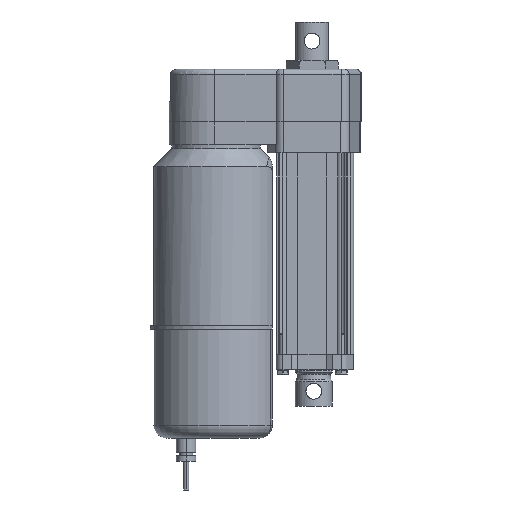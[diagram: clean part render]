
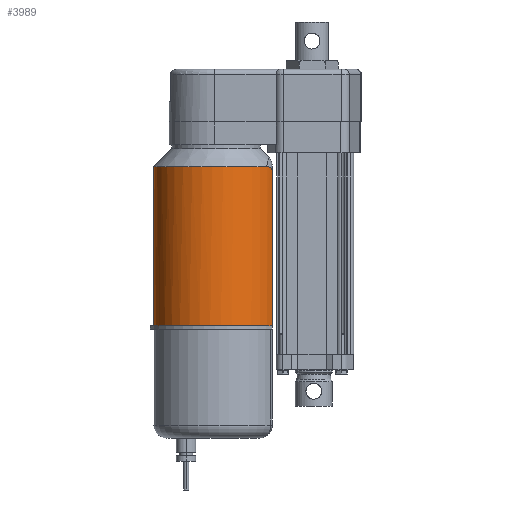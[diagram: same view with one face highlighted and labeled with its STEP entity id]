
A CAD part, left-side view. The second image highlights one B-rep face of the part: STEP entity #3989.
In plain terms, the highlighted cylindrical face has radius 48 mm (diameter 96 mm), a partial arc.
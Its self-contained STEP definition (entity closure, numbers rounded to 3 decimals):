
#8 = EDGE_CURVE ( 'NONE', #3208, #3338, #5156, .T. ) ;
#37 = EDGE_CURVE ( 'NONE', #3333, #3345, #5199, .T. ) ;
#42 = EDGE_CURVE ( 'NONE', #3209, #3334, #4304, .T. ) ;
#43 = EDGE_CURVE ( 'NONE', #3334, #3304, #5204, .T. ) ;
#44 = EDGE_CURVE ( 'NONE', #3304, #3333, #5212, .T. ) ;
#45 = EDGE_CURVE ( 'NONE', #3345, #3338, #4303, .T. ) ;
#249 = AXIS2_PLACEMENT_3D ( 'NONE', #11625, #11622, #11561 ) ;
#264 = AXIS2_PLACEMENT_3D ( 'NONE', #11695, #11666, #11648 ) ;
#552 = AXIS2_PLACEMENT_3D ( 'NONE', #8160, #8166, #8167 ) ;
#641 = AXIS2_PLACEMENT_3D ( 'NONE', #9085, #9084, #9083 ) ;
#1792 = EDGE_CURVE ( 'NONE', #3209, #3208, #6416, .T. ) ;
#3208 = VERTEX_POINT ( 'NONE', #8463 ) ;
#3209 = VERTEX_POINT ( 'NONE', #8464 ) ;
#3304 = VERTEX_POINT ( 'NONE', #8559 ) ;
#3333 = VERTEX_POINT ( 'NONE', #8588 ) ;
#3334 = VERTEX_POINT ( 'NONE', #8589 ) ;
#3338 = VERTEX_POINT ( 'NONE', #8593 ) ;
#3345 = VERTEX_POINT ( 'NONE', #8600 ) ;
#3989 = ADVANCED_FACE ( 'NONE', ( #6576 ), #6575, .T. ) ;
#4303 = B_SPLINE_CURVE_WITH_KNOTS ( 'NONE', 3,
 ( #11647, #11645, #11681, #11573, #11571, #11574, #11588, #11535, #11536, #11537, #11596, #11600, #11564, #11575, #11592, #11602, #11576, #11603, #11539, #11591 ),
 .UNSPECIFIED., .F., .F.,
 ( 4, 2, 2, 2, 2, 2, 2, 2, 2, 4 ),
 ( 0., 0.001, 0.002, 0.003, 0.003, 0.004, 0.006, 0.007, 0.008, 0.011 ),
 .UNSPECIFIED. ) ;
#4304 = B_SPLINE_CURVE_WITH_KNOTS ( 'NONE', 3,
 ( #11660, #11680, #11685, #11686, #11699, #11692, #11570, #11565, #11696, #11693, #11697, #11698, #11690, #11691, #11688, #11694, #11687, #11689, #11700, #11643 ),
 .UNSPECIFIED., .F., .F.,
 ( 4, 2, 2, 2, 2, 2, 2, 2, 2, 4 ),
 ( 0., 0.003, 0.004, 0.006, 0.007, 0.008, 0.008, 0.009, 0.01, 0.011 ),
 .UNSPECIFIED. ) ;
#4414 = ORIENTED_EDGE ( 'NONE', *, *, #1792, .F. ) ;
#4415 = ORIENTED_EDGE ( 'NONE', *, *, #42, .T. ) ;
#4416 = ORIENTED_EDGE ( 'NONE', *, *, #43, .T. ) ;
#4417 = ORIENTED_EDGE ( 'NONE', *, *, #44, .T. ) ;
#4418 = ORIENTED_EDGE ( 'NONE', *, *, #37, .T. ) ;
#4419 = ORIENTED_EDGE ( 'NONE', *, *, #45, .T. ) ;
#4420 = ORIENTED_EDGE ( 'NONE', *, *, #8, .F. ) ;
#5156 = CIRCLE ( 'NONE', #249, 48. ) ;
#5199 = LINE ( 'NONE', #11652, #5203 ) ;
#5203 = VECTOR ( 'NONE', #11664, 1000. ) ;
#5204 = LINE ( 'NONE', #11641, #5205 ) ;
#5205 = VECTOR ( 'NONE', #11667, 1000. ) ;
#5212 = CIRCLE ( 'NONE', #264, 48. ) ;
#6416 = CIRCLE ( 'NONE', #552, 48. ) ;
#6575 = CYLINDRICAL_SURFACE ( 'NONE', #641, 48. ) ;
#6576 = FACE_OUTER_BOUND ( 'NONE', #7879, .T. ) ;
#7879 = EDGE_LOOP ( 'NONE', ( #4414, #4415, #4416, #4417, #4418, #4419, #4420 ) ) ;
#8160 = CARTESIAN_POINT ( 'NONE',  ( 0., 73.9, 53.5 ) ) ;
#8166 = DIRECTION ( 'NONE',  ( 0., 0., 1. ) ) ;
#8167 = DIRECTION ( 'NONE',  ( 0., -1., 0. ) ) ;
#8463 = CARTESIAN_POINT ( 'NONE',  ( 0., 121.9, 53.5 ) ) ;
#8464 = CARTESIAN_POINT ( 'NONE',  ( 27.908, 34.847, 53.5 ) ) ;
#8559 = CARTESIAN_POINT ( 'NONE',  ( 20.715, 30.6, -69. ) ) ;
#8588 = CARTESIAN_POINT ( 'NONE',  ( -20.715, 30.6, -69. ) ) ;
#8589 = CARTESIAN_POINT ( 'NONE',  ( 20.715, 30.6, 48.141 ) ) ;
#8593 = CARTESIAN_POINT ( 'NONE',  ( -27.908, 34.847, 53.5 ) ) ;
#8600 = CARTESIAN_POINT ( 'NONE',  ( -20.715, 30.6, 48.141 ) ) ;
#9083 = DIRECTION ( 'NONE',  ( 0., -1., 0. ) ) ;
#9084 = DIRECTION ( 'NONE',  ( 0., 0., 1. ) ) ;
#9085 = CARTESIAN_POINT ( 'NONE',  ( 0., 73.9, 128.5 ) ) ;
#11535 = CARTESIAN_POINT ( 'NONE',  ( -21.565, 31.017, 50.931 ) ) ;
#11536 = CARTESIAN_POINT ( 'NONE',  ( -21.703, 31.086, 51.11 ) ) ;
#11537 = CARTESIAN_POINT ( 'NONE',  ( -21.994, 31.235, 51.438 ) ) ;
#11539 = CARTESIAN_POINT ( 'NONE',  ( -27.154, 34.308, 53.5 ) ) ;
#11561 = DIRECTION ( 'NONE',  ( 0., -1., 0. ) ) ;
#11564 = CARTESIAN_POINT ( 'NONE',  ( -22.991, 31.762, 52.25 ) ) ;
#11565 = CARTESIAN_POINT ( 'NONE',  ( 22.996, 31.765, 52.253 ) ) ;
#11570 = CARTESIAN_POINT ( 'NONE',  ( 23.725, 32.171, 52.651 ) ) ;
#11571 = CARTESIAN_POINT ( 'NONE',  ( -21.027, 30.751, 49.947 ) ) ;
#11573 = CARTESIAN_POINT ( 'NONE',  ( -20.949, 30.713, 49.727 ) ) ;
#11574 = CARTESIAN_POINT ( 'NONE',  ( -21.213, 30.842, 50.361 ) ) ;
#11575 = CARTESIAN_POINT ( 'NONE',  ( -23.718, 32.167, 52.648 ) ) ;
#11576 = CARTESIAN_POINT ( 'NONE',  ( -25.236, 33.067, 53.184 ) ) ;
#11588 = CARTESIAN_POINT ( 'NONE',  ( -21.321, 30.895, 50.558 ) ) ;
#11591 = CARTESIAN_POINT ( 'NONE',  ( -27.908, 34.847, 53.5 ) ) ;
#11592 = CARTESIAN_POINT ( 'NONE',  ( -24.091, 32.381, 52.81 ) ) ;
#11596 = CARTESIAN_POINT ( 'NONE',  ( -22.149, 31.315, 51.59 ) ) ;
#11600 = CARTESIAN_POINT ( 'NONE',  ( -22.634, 31.57, 52.011 ) ) ;
#11602 = CARTESIAN_POINT ( 'NONE',  ( -24.85, 32.831, 53.078 ) ) ;
#11603 = CARTESIAN_POINT ( 'NONE',  ( -26.391, 33.796, 53.43 ) ) ;
#11622 = DIRECTION ( 'NONE',  ( 0., 0., 1. ) ) ;
#11625 = CARTESIAN_POINT ( 'NONE',  ( 0., 73.9, 53.5 ) ) ;
#11641 = CARTESIAN_POINT ( 'NONE',  ( 20.715, 30.6, 128.5 ) ) ;
#11643 = CARTESIAN_POINT ( 'NONE',  ( 20.715, 30.6, 48.141 ) ) ;
#11645 = CARTESIAN_POINT ( 'NONE',  ( -20.715, 30.6, 48.607 ) ) ;
#11647 = CARTESIAN_POINT ( 'NONE',  ( -20.715, 30.6, 48.141 ) ) ;
#11648 = DIRECTION ( 'NONE',  ( 0., -1., 0. ) ) ;
#11652 = CARTESIAN_POINT ( 'NONE',  ( -20.715, 30.6, 128.5 ) ) ;
#11660 = CARTESIAN_POINT ( 'NONE',  ( 27.908, 34.847, 53.5 ) ) ;
#11664 = DIRECTION ( 'NONE',  ( 0., 0., 1. ) ) ;
#11666 = DIRECTION ( 'NONE',  ( 0., 0., 1. ) ) ;
#11667 = DIRECTION ( 'NONE',  ( 0., 0., -1. ) ) ;
#11680 = CARTESIAN_POINT ( 'NONE',  ( 27.154, 34.308, 53.5 ) ) ;
#11681 = CARTESIAN_POINT ( 'NONE',  ( -20.768, 30.625, 49.063 ) ) ;
#11685 = CARTESIAN_POINT ( 'NONE',  ( 26.394, 33.798, 53.43 ) ) ;
#11686 = CARTESIAN_POINT ( 'NONE',  ( 25.248, 33.075, 53.187 ) ) ;
#11687 = CARTESIAN_POINT ( 'NONE',  ( 20.952, 30.714, 49.736 ) ) ;
#11688 = CARTESIAN_POINT ( 'NONE',  ( 21.217, 30.844, 50.367 ) ) ;
#11689 = CARTESIAN_POINT ( 'NONE',  ( 20.769, 30.626, 49.07 ) ) ;
#11690 = CARTESIAN_POINT ( 'NONE',  ( 21.57, 31.019, 50.938 ) ) ;
#11691 = CARTESIAN_POINT ( 'NONE',  ( 21.325, 30.897, 50.564 ) ) ;
#11692 = CARTESIAN_POINT ( 'NONE',  ( 24.101, 32.387, 52.814 ) ) ;
#11693 = CARTESIAN_POINT ( 'NONE',  ( 22.153, 31.318, 51.594 ) ) ;
#11694 = CARTESIAN_POINT ( 'NONE',  ( 21.03, 30.752, 49.954 ) ) ;
#11695 = CARTESIAN_POINT ( 'NONE',  ( 0., 73.9, -69. ) ) ;
#11696 = CARTESIAN_POINT ( 'NONE',  ( 22.64, 31.573, 52.015 ) ) ;
#11697 = CARTESIAN_POINT ( 'NONE',  ( 21.999, 31.238, 51.443 ) ) ;
#11698 = CARTESIAN_POINT ( 'NONE',  ( 21.708, 31.089, 51.116 ) ) ;
#11699 = CARTESIAN_POINT ( 'NONE',  ( 24.866, 32.84, 53.083 ) ) ;
#11700 = CARTESIAN_POINT ( 'NONE',  ( 20.715, 30.6, 48.608 ) ) ;
